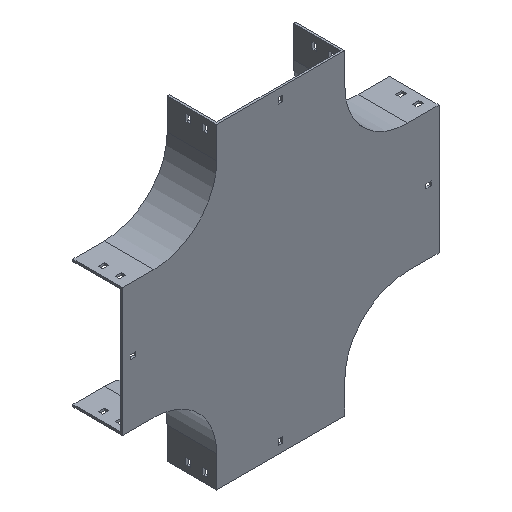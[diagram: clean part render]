
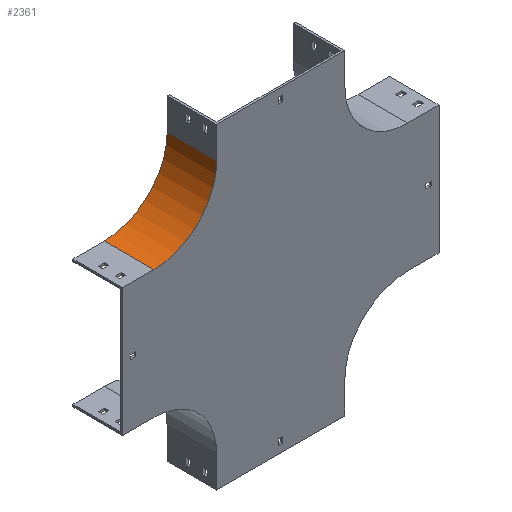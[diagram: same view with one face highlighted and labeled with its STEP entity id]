
A CAD part, isometric view. The second image highlights one B-rep face of the part: STEP entity #2361.
In plain terms, the highlighted cylindrical face has radius 100 mm (diameter 200 mm), a partial arc.
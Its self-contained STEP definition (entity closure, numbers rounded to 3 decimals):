
#78 = FACE_OUTER_BOUND ( 'NONE', #912, .T. ) ;
#81 = EDGE_CURVE ( 'NONE', #2500, #3248, #2265, .T. ) ;
#164 = ORIENTED_EDGE ( 'NONE', *, *, #3482, .F. ) ;
#291 = LINE ( 'NONE', #3194, #1313 ) ;
#591 = CARTESIAN_POINT ( 'NONE',  ( -304., 0., 0. ) ) ;
#746 = DIRECTION ( 'NONE',  ( 0., 0., -1. ) ) ;
#792 = ORIENTED_EDGE ( 'NONE', *, *, #2740, .F. ) ;
#806 = CARTESIAN_POINT ( 'NONE',  ( -404., 79., -100. ) ) ;
#829 = DIRECTION ( 'NONE',  ( 0., 0., 1. ) ) ;
#912 = EDGE_LOOP ( 'NONE', ( #3476, #792, #164, #1513 ) ) ;
#1003 = DIRECTION ( 'NONE',  ( 0., -1., 0. ) ) ;
#1313 = VECTOR ( 'NONE', #2626, 1000. ) ;
#1423 = EDGE_CURVE ( 'NONE', #3248, #3545, #1775, .T. ) ;
#1424 = DIRECTION ( 'NONE',  ( 0., -1., 0. ) ) ;
#1436 = AXIS2_PLACEMENT_3D ( 'NONE', #2208, #3461, #829 ) ;
#1447 = DIRECTION ( 'NONE',  ( 0., 0., 1. ) ) ;
#1513 = ORIENTED_EDGE ( 'NONE', *, *, #81, .T. ) ;
#1705 = CARTESIAN_POINT ( 'NONE',  ( -404., 0., 0. ) ) ;
#1775 = CIRCLE ( 'NONE', #3376, 100. ) ;
#1797 = CARTESIAN_POINT ( 'NONE',  ( -404., 0., -100. ) ) ;
#2208 = CARTESIAN_POINT ( 'NONE',  ( -404., 79., 0. ) ) ;
#2265 = LINE ( 'NONE', #806, #3744 ) ;
#2289 = DIRECTION ( 'NONE',  ( 0., -1., 0. ) ) ;
#2361 = ADVANCED_FACE ( 'NONE', ( #78 ), #3359, .F. ) ;
#2393 = CARTESIAN_POINT ( 'NONE',  ( -304., 79., 0. ) ) ;
#2500 = VERTEX_POINT ( 'NONE', #3278 ) ;
#2626 = DIRECTION ( 'NONE',  ( 0., -1., 0. ) ) ;
#2740 = EDGE_CURVE ( 'NONE', #2881, #3545, #291, .T. ) ;
#2881 = VERTEX_POINT ( 'NONE', #2393 ) ;
#3194 = CARTESIAN_POINT ( 'NONE',  ( -304., 79., 0. ) ) ;
#3248 = VERTEX_POINT ( 'NONE', #1797 ) ;
#3278 = CARTESIAN_POINT ( 'NONE',  ( -404., 79., -100. ) ) ;
#3359 = CYLINDRICAL_SURFACE ( 'NONE', #3648, 100. ) ;
#3376 = AXIS2_PLACEMENT_3D ( 'NONE', #1705, #1424, #1447 ) ;
#3461 = DIRECTION ( 'NONE',  ( 0., -1., 0. ) ) ;
#3476 = ORIENTED_EDGE ( 'NONE', *, *, #1423, .T. ) ;
#3482 = EDGE_CURVE ( 'NONE', #2500, #2881, #3504, .T. ) ;
#3504 = CIRCLE ( 'NONE', #1436, 100. ) ;
#3545 = VERTEX_POINT ( 'NONE', #591 ) ;
#3630 = CARTESIAN_POINT ( 'NONE',  ( -404., 79., 0. ) ) ;
#3648 = AXIS2_PLACEMENT_3D ( 'NONE', #3630, #1003, #746 ) ;
#3744 = VECTOR ( 'NONE', #2289, 1000. ) ;
